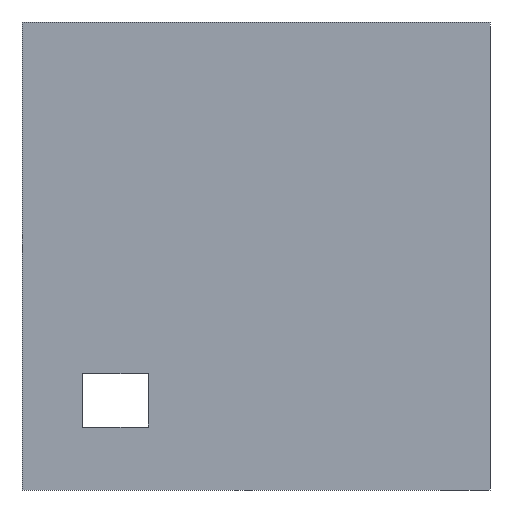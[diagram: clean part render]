
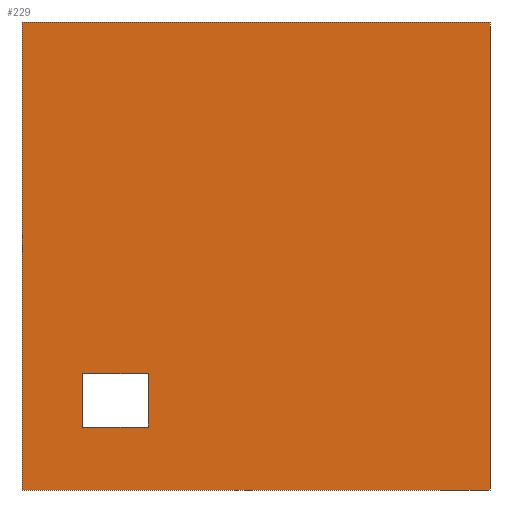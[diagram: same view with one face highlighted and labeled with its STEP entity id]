
A CAD part, front view. The second image highlights one B-rep face of the part: STEP entity #229.
In plain terms, the highlighted planar face has unit normal (0, -1, 0).
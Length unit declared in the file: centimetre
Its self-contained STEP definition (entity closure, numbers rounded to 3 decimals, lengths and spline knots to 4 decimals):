
#12 = LINE ( 'NONE', #298, #904 ) ;
#35 = DIRECTION ( 'NONE',  ( 0., 0., -1. ) ) ;
#36 = VERTEX_POINT ( 'NONE', #811 ) ;
#45 = LINE ( 'NONE', #1046, #1238 ) ;
#57 = CARTESIAN_POINT ( 'NONE',  ( 129.1629, 0., 134.5623 ) ) ;
#59 = CARTESIAN_POINT ( 'NONE',  ( 129.1629, 0., 248.8695 ) ) ;
#63 = EDGE_LOOP ( 'NONE', ( #1210, #1196, #998, #238 ) ) ;
#98 = EDGE_CURVE ( 'NONE', #1285, #215, #179, .T. ) ;
#100 = ORIENTED_EDGE ( 'NONE', *, *, #395, .F. ) ;
#164 = CARTESIAN_POINT ( 'NONE',  ( 0., 0., 0. ) ) ;
#169 = CARTESIAN_POINT ( 'NONE',  ( 270.0786, 0., 134.5623 ) ) ;
#179 = LINE ( 'NONE', #169, #1049 ) ;
#215 = VERTEX_POINT ( 'NONE', #533 ) ;
#229 = ADVANCED_FACE ( 'NONE', ( #745, #956 ), #322, .F. ) ;
#232 = CARTESIAN_POINT ( 'NONE',  ( 129.1629, 0., 134.5623 ) ) ;
#238 = ORIENTED_EDGE ( 'NONE', *, *, #98, .T. ) ;
#248 = LINE ( 'NONE', #526, #856 ) ;
#270 = LINE ( 'NONE', #59, #789 ) ;
#278 = EDGE_CURVE ( 'NONE', #1018, #513, #248, .T. ) ;
#292 = CARTESIAN_POINT ( 'NONE',  ( 129.1629, 0., 248.8695 ) ) ;
#298 = CARTESIAN_POINT ( 'NONE',  ( 0., 0., 0. ) ) ;
#315 = DIRECTION ( 'NONE',  ( 0., 1., 0. ) ) ;
#322 = PLANE ( 'NONE',  #562 ) ;
#360 = EDGE_CURVE ( 'NONE', #558, #1285, #270, .T. ) ;
#362 = ORIENTED_EDGE ( 'NONE', *, *, #278, .F. ) ;
#374 = VERTEX_POINT ( 'NONE', #164 ) ;
#395 = EDGE_CURVE ( 'NONE', #1214, #1018, #1027, .T. ) ;
#463 = EDGE_CURVE ( 'NONE', #1214, #374, #45, .T. ) ;
#466 = DIRECTION ( 'NONE',  ( 1., 0., 0. ) ) ;
#513 = VERTEX_POINT ( 'NONE', #561 ) ;
#525 = DIRECTION ( 'NONE',  ( 1., 0., 0. ) ) ;
#526 = CARTESIAN_POINT ( 'NONE',  ( 1000., 0., 1000. ) ) ;
#533 = CARTESIAN_POINT ( 'NONE',  ( 270.0786, 0., 134.5623 ) ) ;
#555 = VECTOR ( 'NONE', #1017, 100. ) ;
#558 = VERTEX_POINT ( 'NONE', #292 ) ;
#561 = CARTESIAN_POINT ( 'NONE',  ( 1000., 0., 0. ) ) ;
#562 = AXIS2_PLACEMENT_3D ( 'NONE', #1037, #315, #1272 ) ;
#655 = ORIENTED_EDGE ( 'NONE', *, *, #463, .T. ) ;
#662 = VECTOR ( 'NONE', #870, 100. ) ;
#730 = EDGE_CURVE ( 'NONE', #374, #513, #12, .T. ) ;
#745 = FACE_BOUND ( 'NONE', #63, .T. ) ;
#780 = CARTESIAN_POINT ( 'NONE',  ( 270.0786, 0., 248.8695 ) ) ;
#789 = VECTOR ( 'NONE', #466, 100. ) ;
#811 = CARTESIAN_POINT ( 'NONE',  ( 129.1629, 0., 134.5623 ) ) ;
#844 = DIRECTION ( 'NONE',  ( 0., 0., -1. ) ) ;
#856 = VECTOR ( 'NONE', #35, 100. ) ;
#869 = VECTOR ( 'NONE', #928, 100. ) ;
#870 = DIRECTION ( 'NONE',  ( -1., 0., 0. ) ) ;
#890 = LINE ( 'NONE', #57, #662 ) ;
#899 = CARTESIAN_POINT ( 'NONE',  ( 0., 0., 1000. ) ) ;
#904 = VECTOR ( 'NONE', #525, 100. ) ;
#906 = DIRECTION ( 'NONE',  ( 0., 0., -1. ) ) ;
#916 = CARTESIAN_POINT ( 'NONE',  ( 1000., 0., 1000. ) ) ;
#928 = DIRECTION ( 'NONE',  ( 0., 0., 1. ) ) ;
#956 = FACE_OUTER_BOUND ( 'NONE', #1192, .T. ) ;
#985 = CARTESIAN_POINT ( 'NONE',  ( 0., 0., 1000. ) ) ;
#998 = ORIENTED_EDGE ( 'NONE', *, *, #360, .T. ) ;
#1017 = DIRECTION ( 'NONE',  ( 1., 0., 0. ) ) ;
#1018 = VERTEX_POINT ( 'NONE', #916 ) ;
#1027 = LINE ( 'NONE', #899, #555 ) ;
#1037 = CARTESIAN_POINT ( 'NONE',  ( 0., 0., 1000. ) ) ;
#1046 = CARTESIAN_POINT ( 'NONE',  ( 0., 0., 1000. ) ) ;
#1049 = VECTOR ( 'NONE', #906, 100. ) ;
#1151 = LINE ( 'NONE', #232, #869 ) ;
#1154 = EDGE_CURVE ( 'NONE', #36, #558, #1151, .T. ) ;
#1175 = ORIENTED_EDGE ( 'NONE', *, *, #730, .T. ) ;
#1192 = EDGE_LOOP ( 'NONE', ( #1175, #362, #100, #655 ) ) ;
#1196 = ORIENTED_EDGE ( 'NONE', *, *, #1154, .T. ) ;
#1210 = ORIENTED_EDGE ( 'NONE', *, *, #1282, .T. ) ;
#1214 = VERTEX_POINT ( 'NONE', #985 ) ;
#1238 = VECTOR ( 'NONE', #844, 100. ) ;
#1272 = DIRECTION ( 'NONE',  ( 0., 0., 1. ) ) ;
#1282 = EDGE_CURVE ( 'NONE', #215, #36, #890, .T. ) ;
#1285 = VERTEX_POINT ( 'NONE', #780 ) ;
